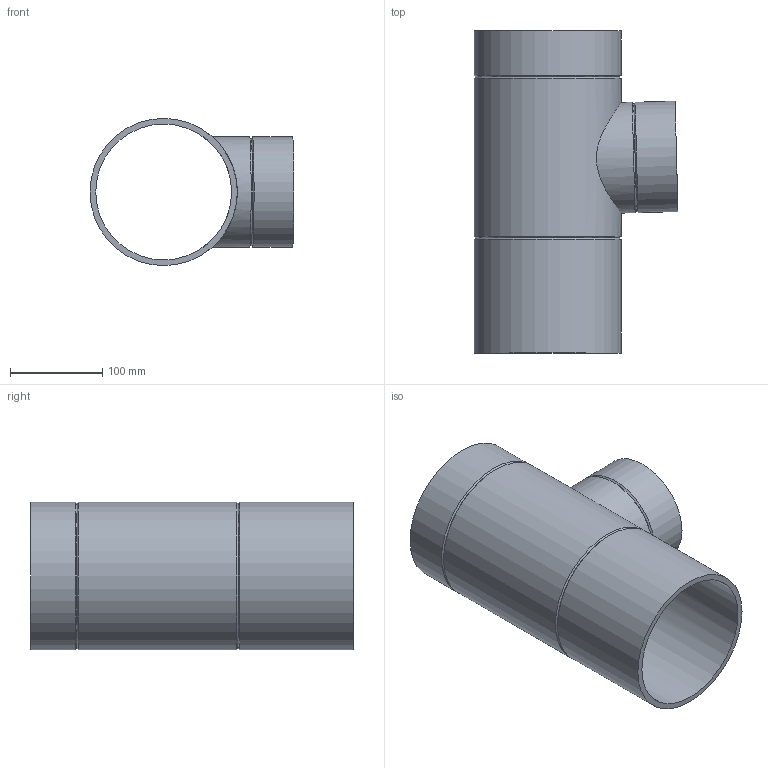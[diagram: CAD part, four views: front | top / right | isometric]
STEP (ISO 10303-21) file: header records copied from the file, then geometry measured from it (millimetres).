
FILE_DESCRIPTION(/* description */ (''),/* implementation_level */ '2;1');
FILE_NAME(/* name */ 'Z:\Geberit\Export\NewStep\369189.stp',/* time_stamp */ '2014-04-02T08:02:13+02:00',/* author */ ('nelson'),/* organization */ (''),/* preprocessor_version */ 'ST-DEVELOPER v15.2',/* originating_system */ 'Autodesk Inventor 2014',/* authorisation */ '');
FILE_SCHEMA (('AUTOMOTIVE_DESIGN { 1 0 10303 214 3 1 1 }'));
Length unit declared in the file: millimetre
Products named in the file (1): 369189
Bounding box: 221.52 x 350 x 160 mm (x, y, z)
Volume: 1107536.1 mm3; surface area: 379437.9 mm2
Topology: 1 solids, 1 shells, 16 faces, 37 edges, 23 vertices
Faces by surface type: cylinder 7, cone 6, plane 3
Full cylindrical faces by diameter (mm): 110.2 x1, 120 x2, 147.6 x1, 160 x3
Entity records: 503 total; most frequent: CARTESIAN_POINT 181, DIRECTION 64, EDGE_LOOP 34, ORIENTED_EDGE 34, AXIS2_PLACEMENT_3D 32, FACE_BOUND 22, VERTEX_POINT 17, EDGE_CURVE 17
